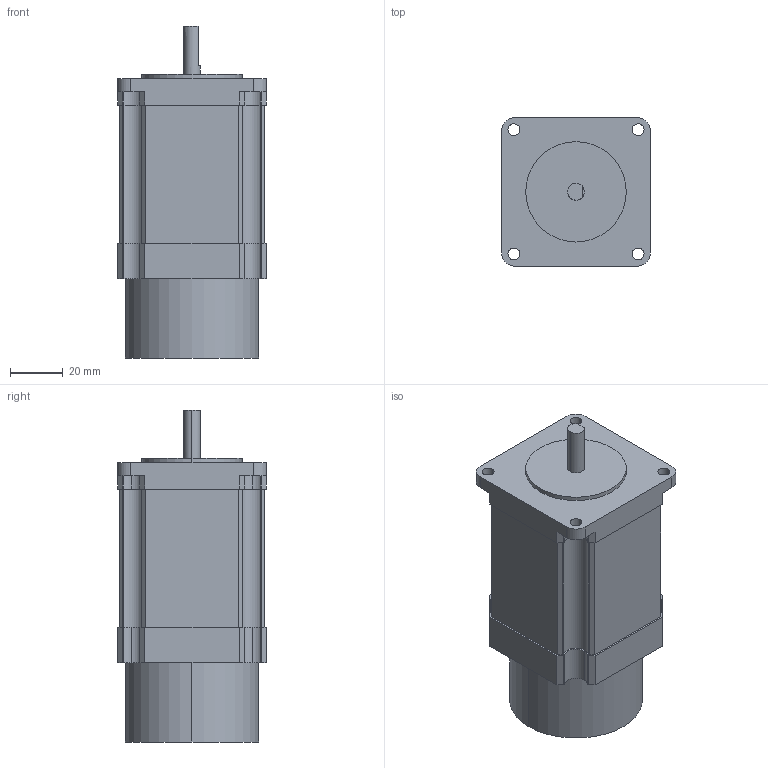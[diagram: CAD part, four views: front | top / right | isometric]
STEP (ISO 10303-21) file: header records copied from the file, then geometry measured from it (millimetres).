
FILE_DESCRIPTION (( 'STEP AP214' ), '1' );
FILE_NAME ('K268-02M.STEP', '2016-09-08T09:21:07', ( 'hoho' ), ( '' ), 'SwSTEP 2.0', 'SolidWorks 2013', '' );
FILE_SCHEMA (( 'AUTOMOTIVE_DESIGN' ));
Length unit declared in the file: millimetre
Products named in the file (1): K268-02M
Bounding box: 56.4 x 56.4 x 126 mm (x, y, z)
Volume: 274614 mm3; surface area: 28533.5 mm2
Topology: 1 solids, 1 shells, 115 faces, 324 edges, 216 vertices
Faces by surface type: cylinder 66, plane 49
Entity records: 4130 total; most frequent: DIRECTION 690, CARTESIAN_POINT 656, ORIENTED_EDGE 648, EDGE_CURVE 324, AXIS2_PLACEMENT_3D 250, VERTEX_POINT 216, VECTOR 190, LINE 190
